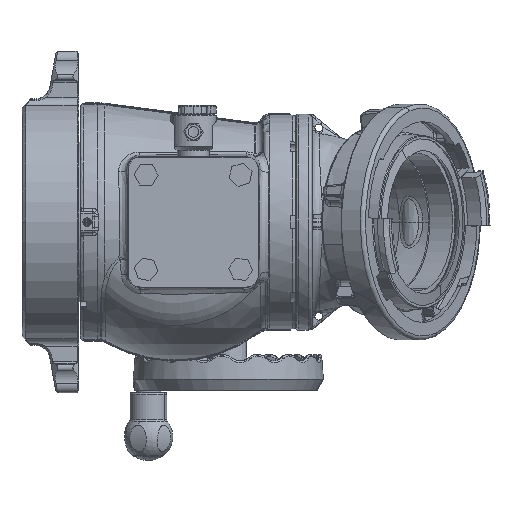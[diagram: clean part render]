
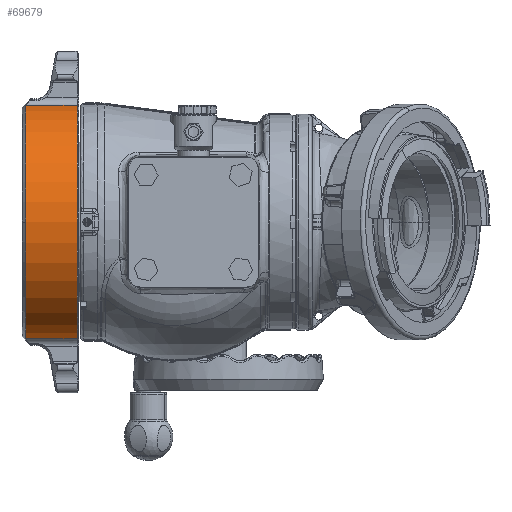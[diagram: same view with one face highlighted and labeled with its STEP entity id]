
A CAD part, front view. The second image highlights one B-rep face of the part: STEP entity #69679.
In plain terms, the highlighted cylindrical face has radius 98.425 mm (diameter 196.85 mm), a partial arc.
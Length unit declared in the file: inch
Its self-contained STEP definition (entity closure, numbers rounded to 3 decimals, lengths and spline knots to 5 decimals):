
#23018 = AXIS2_PLACEMENT_3D ( 'NONE', #154221, #154223, #154225 ) ;
#23873 = LINE ( 'NONE', #151477, #157866 ) ;
#23879 = LINE ( 'NONE', #151467, #23880 ) ;
#23880 = VECTOR ( 'NONE', #151466, 39.37008 ) ;
#24571 = CARTESIAN_POINT ( 'NONE',  ( -4.21165, -1.13098, -3.81329 ) ) ;
#24573 = CARTESIAN_POINT ( 'NONE',  ( -4.21165, -1.13098, 3.81329 ) ) ;
#24575 = CARTESIAN_POINT ( 'NONE',  ( -5.88715, -1.13098, -3.81329 ) ) ;
#24725 = CARTESIAN_POINT ( 'NONE',  ( -5.88715, -1.13098, 3.81329 ) ) ;
#24726 = CARTESIAN_POINT ( 'NONE',  ( -5.88715, -4.31719, 0. ) ) ;
#31817 = CIRCLE ( 'NONE', #23018, 3.875 ) ;
#63108 = AXIS2_PLACEMENT_3D ( 'NONE', #151495, #151496, #151497 ) ;
#63109 = AXIS2_PLACEMENT_3D ( 'NONE', #151500, #151501, #151502 ) ;
#69340 = ORIENTED_EDGE ( 'NONE', *, *, #162061, .T. ) ;
#69342 = ORIENTED_EDGE ( 'NONE', *, *, #162065, .T. ) ;
#69344 = ORIENTED_EDGE ( 'NONE', *, *, #162068, .F. ) ;
#69346 = ORIENTED_EDGE ( 'NONE', *, *, #99255, .F. ) ;
#69347 = ORIENTED_EDGE ( 'NONE', *, *, #162070, .F. ) ;
#69679 = ADVANCED_FACE ( 'NONE', ( #141268 ), #141283, .T. ) ;
#85699 = EDGE_LOOP ( 'NONE', ( #69340, #69342, #69344, #69346, #69347 ) ) ;
#89403 = CIRCLE ( 'NONE', #63108, 3.875 ) ;
#93163 = AXIS2_PLACEMENT_3D ( 'NONE', #144345, #144360, #144357 ) ;
#99255 = EDGE_CURVE ( 'NONE', #129869, #129868, #31817, .T. ) ;
#129714 = VERTEX_POINT ( 'NONE', #24571 ) ;
#129716 = VERTEX_POINT ( 'NONE', #24573 ) ;
#129718 = VERTEX_POINT ( 'NONE', #24575 ) ;
#129868 = VERTEX_POINT ( 'NONE', #24725 ) ;
#129869 = VERTEX_POINT ( 'NONE', #24726 ) ;
#141268 = FACE_OUTER_BOUND ( 'NONE', #85699, .T. ) ;
#141283 = CYLINDRICAL_SURFACE ( 'NONE', #93163, 3.875 ) ;
#144345 = CARTESIAN_POINT ( 'NONE',  ( -6.01215, -0.44219, 0. ) ) ;
#144357 = DIRECTION ( 'NONE',  ( 0., 0., -1. ) ) ;
#144360 = DIRECTION ( 'NONE',  ( 1., 0., 0. ) ) ;
#151466 = DIRECTION ( 'NONE',  ( 1., 0., 0. ) ) ;
#151467 = CARTESIAN_POINT ( 'NONE',  ( -6.01215, -1.13098, -3.81329 ) ) ;
#151477 = CARTESIAN_POINT ( 'NONE',  ( -6.01215, -1.13098, 3.81329 ) ) ;
#151478 = DIRECTION ( 'NONE',  ( 1., 0., 0. ) ) ;
#151495 = CARTESIAN_POINT ( 'NONE',  ( -4.21165, -0.44219, 0. ) ) ;
#151496 = DIRECTION ( 'NONE',  ( -1., 0., 0. ) ) ;
#151497 = DIRECTION ( 'NONE',  ( 0., 0., -1. ) ) ;
#151500 = CARTESIAN_POINT ( 'NONE',  ( -5.88715, -0.44219, 0. ) ) ;
#151501 = DIRECTION ( 'NONE',  ( -1., 0., 0. ) ) ;
#151502 = DIRECTION ( 'NONE',  ( 0., 1., 0. ) ) ;
#154221 = CARTESIAN_POINT ( 'NONE',  ( -5.88715, -0.44219, 0. ) ) ;
#154223 = DIRECTION ( 'NONE',  ( -1., 0., 0. ) ) ;
#154225 = DIRECTION ( 'NONE',  ( 0., 1., 0. ) ) ;
#157866 = VECTOR ( 'NONE', #151478, 39.37008 ) ;
#157868 = CIRCLE ( 'NONE', #63109, 3.875 ) ;
#162061 = EDGE_CURVE ( 'NONE', #129718, #129714, #23879, .T. ) ;
#162065 = EDGE_CURVE ( 'NONE', #129714, #129716, #89403, .T. ) ;
#162068 = EDGE_CURVE ( 'NONE', #129868, #129716, #23873, .T. ) ;
#162070 = EDGE_CURVE ( 'NONE', #129718, #129869, #157868, .T. ) ;
